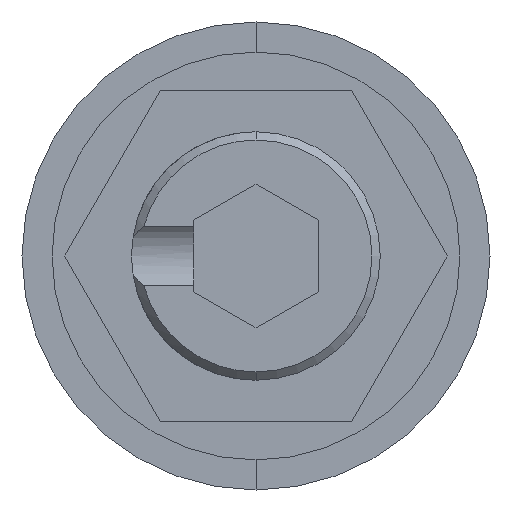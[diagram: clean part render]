
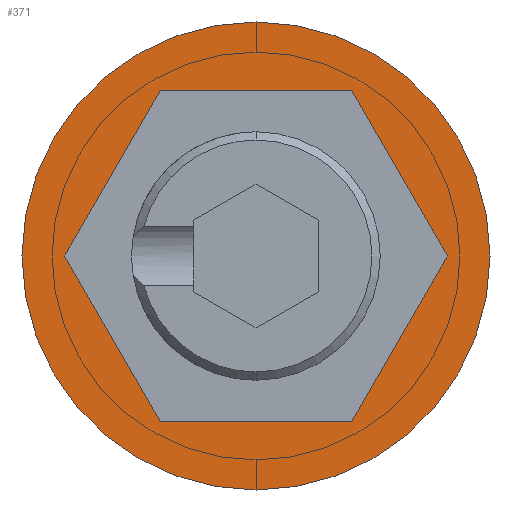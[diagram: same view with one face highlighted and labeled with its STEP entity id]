
A CAD part, front view. The second image highlights one B-rep face of the part: STEP entity #371.
In plain terms, the highlighted planar face has unit normal (0, -1, 0).
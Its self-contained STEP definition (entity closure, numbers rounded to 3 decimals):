
#104 = EDGE_CURVE ( 'NONE', #2054, #356, #1413, .T. ) ;
#295 = VECTOR ( 'NONE', #999, 1000. ) ;
#324 = VECTOR ( 'NONE', #2014, 1000. ) ;
#356 = VERTEX_POINT ( 'NONE', #597 ) ;
#371 = ADVANCED_FACE ( 'NONE', ( #2085, #1374 ), #2040, .T. ) ;
#395 = EDGE_CURVE ( 'NONE', #1356, #900, #1322, .T. ) ;
#415 = EDGE_CURVE ( 'NONE', #726, #1657, #498, .T. ) ;
#437 = CARTESIAN_POINT ( 'NONE',  ( 4.619, 0., 0. ) ) ;
#498 = LINE ( 'NONE', #794, #295 ) ;
#597 = CARTESIAN_POINT ( 'NONE',  ( 0., 0., 5.65 ) ) ;
#616 = DIRECTION ( 'NONE',  ( 1., 0., 0. ) ) ;
#668 = CARTESIAN_POINT ( 'NONE',  ( 0., 0., -5.65 ) ) ;
#669 = EDGE_CURVE ( 'NONE', #731, #1460, #1186, .T. ) ;
#688 = ORIENTED_EDGE ( 'NONE', *, *, #1318, .F. ) ;
#706 = CARTESIAN_POINT ( 'NONE',  ( -2.309, 0., 4. ) ) ;
#726 = VERTEX_POINT ( 'NONE', #1776 ) ;
#731 = VERTEX_POINT ( 'NONE', #2115 ) ;
#778 = CARTESIAN_POINT ( 'NONE',  ( -2.309, 0., -4. ) ) ;
#784 = VECTOR ( 'NONE', #1698, 1000. ) ;
#794 = CARTESIAN_POINT ( 'NONE',  ( 2.309, 0., -4. ) ) ;
#830 = CIRCLE ( 'NONE', #1063, 5.65 ) ;
#831 = ORIENTED_EDGE ( 'NONE', *, *, #395, .F. ) ;
#838 = ORIENTED_EDGE ( 'NONE', *, *, #104, .T. ) ;
#900 = VERTEX_POINT ( 'NONE', #706 ) ;
#973 = EDGE_LOOP ( 'NONE', ( #1920, #1048, #976, #831, #688, #1235 ) ) ;
#976 = ORIENTED_EDGE ( 'NONE', *, *, #1542, .F. ) ;
#999 = DIRECTION ( 'NONE',  ( 0.5, 0., 0.866 ) ) ;
#1015 = VECTOR ( 'NONE', #616, 1000. ) ;
#1031 = EDGE_CURVE ( 'NONE', #356, #2054, #830, .T. ) ;
#1048 = ORIENTED_EDGE ( 'NONE', *, *, #669, .F. ) ;
#1063 = AXIS2_PLACEMENT_3D ( 'NONE', #1740, #1751, #1833 ) ;
#1132 = CARTESIAN_POINT ( 'NONE',  ( 0., 0., 0. ) ) ;
#1137 = VECTOR ( 'NONE', #2071, 1000. ) ;
#1143 = CARTESIAN_POINT ( 'NONE',  ( -4.619, 0., 0. ) ) ;
#1147 = DIRECTION ( 'NONE',  ( 0., -1., 0. ) ) ;
#1154 = DIRECTION ( 'NONE',  ( 0., 0., -1. ) ) ;
#1162 = VECTOR ( 'NONE', #1785, 1000. ) ;
#1178 = CARTESIAN_POINT ( 'NONE',  ( 2.309, 0., 4. ) ) ;
#1186 = LINE ( 'NONE', #1143, #1137 ) ;
#1223 = ORIENTED_EDGE ( 'NONE', *, *, #1031, .T. ) ;
#1235 = ORIENTED_EDGE ( 'NONE', *, *, #415, .F. ) ;
#1251 = LINE ( 'NONE', #2030, #324 ) ;
#1257 = AXIS2_PLACEMENT_3D ( 'NONE', #1632, #1880, #1860 ) ;
#1318 = EDGE_CURVE ( 'NONE', #1657, #1356, #1251, .T. ) ;
#1322 = LINE ( 'NONE', #1812, #784 ) ;
#1356 = VERTEX_POINT ( 'NONE', #1178 ) ;
#1373 = EDGE_LOOP ( 'NONE', ( #838, #1223 ) ) ;
#1374 = FACE_OUTER_BOUND ( 'NONE', #1373, .T. ) ;
#1413 = CIRCLE ( 'NONE', #1779, 5.65 ) ;
#1449 = LINE ( 'NONE', #778, #1015 ) ;
#1460 = VERTEX_POINT ( 'NONE', #1480 ) ;
#1480 = CARTESIAN_POINT ( 'NONE',  ( -2.309, 0., -4. ) ) ;
#1542 = EDGE_CURVE ( 'NONE', #900, #731, #1991, .T. ) ;
#1627 = EDGE_CURVE ( 'NONE', #1460, #726, #1449, .T. ) ;
#1632 = CARTESIAN_POINT ( 'NONE',  ( 0., 0., 0. ) ) ;
#1657 = VERTEX_POINT ( 'NONE', #437 ) ;
#1698 = DIRECTION ( 'NONE',  ( -1., 0., 0. ) ) ;
#1740 = CARTESIAN_POINT ( 'NONE',  ( 0., 0., 0. ) ) ;
#1751 = DIRECTION ( 'NONE',  ( 0., -1., 0. ) ) ;
#1776 = CARTESIAN_POINT ( 'NONE',  ( 2.309, 0., -4. ) ) ;
#1779 = AXIS2_PLACEMENT_3D ( 'NONE', #1132, #1147, #1154 ) ;
#1785 = DIRECTION ( 'NONE',  ( -0.5, 0., -0.866 ) ) ;
#1793 = CARTESIAN_POINT ( 'NONE',  ( -2.309, 0., 4. ) ) ;
#1812 = CARTESIAN_POINT ( 'NONE',  ( 2.309, 0., 4. ) ) ;
#1833 = DIRECTION ( 'NONE',  ( 0., 0., -1. ) ) ;
#1860 = DIRECTION ( 'NONE',  ( 0., 0., -1. ) ) ;
#1880 = DIRECTION ( 'NONE',  ( 0., -1., 0. ) ) ;
#1920 = ORIENTED_EDGE ( 'NONE', *, *, #1627, .F. ) ;
#1991 = LINE ( 'NONE', #1793, #1162 ) ;
#2014 = DIRECTION ( 'NONE',  ( -0.5, 0., 0.866 ) ) ;
#2030 = CARTESIAN_POINT ( 'NONE',  ( 4.619, 0., 0. ) ) ;
#2040 = PLANE ( 'NONE',  #1257 ) ;
#2054 = VERTEX_POINT ( 'NONE', #668 ) ;
#2071 = DIRECTION ( 'NONE',  ( 0.5, 0., -0.866 ) ) ;
#2085 = FACE_BOUND ( 'NONE', #973, .T. ) ;
#2115 = CARTESIAN_POINT ( 'NONE',  ( -4.619, 0., 0. ) ) ;
